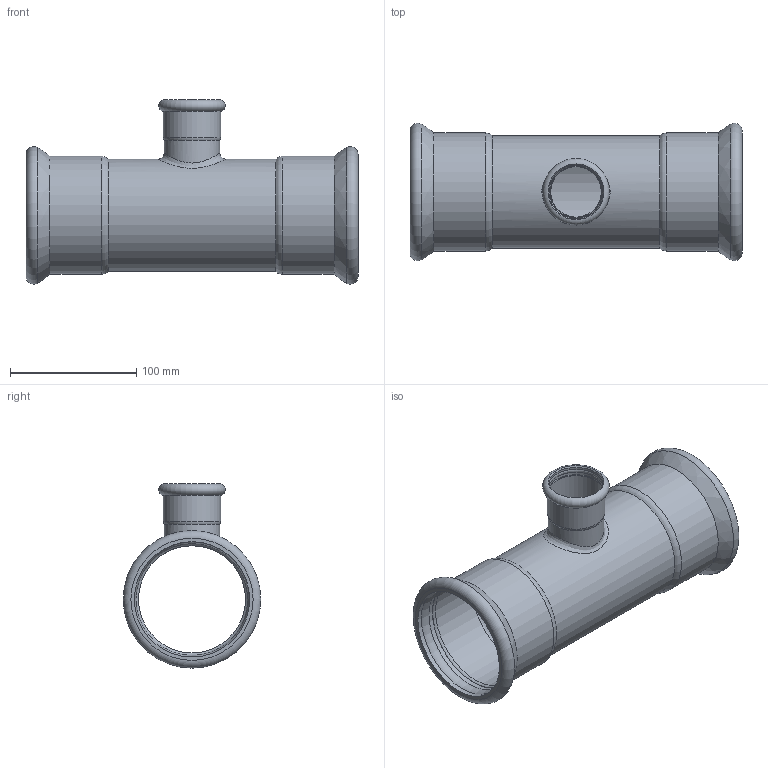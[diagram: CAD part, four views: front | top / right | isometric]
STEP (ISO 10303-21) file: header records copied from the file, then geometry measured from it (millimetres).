
FILE_DESCRIPTION(/* description */ ('TEE RIDOTTO 88,9-42-88,9'),/* implementation_level */ '2;1');
FILE_NAME(/* name */ 'T:\A_ARTICOLI\ARTICOLI PRODOTTI_WEB\Articoli_STEELPRES_WEB\Temporary Step\392088042_Steelpres.ipt.step',/* time_stamp */ '2016-01-19T16:43:13+01:00',/* author */ ('Ghirlinghelli Diego'),/* organization */ (''),/* preprocessor_version */ 'ST-DEVELOPER v15.2',/* originating_system */ 'Autodesk Inventor 2014',/* authorisation */ 'R.M. S.p.A. si riserva a termini di legge la proprietà del presente disegno con divieto di riprodurlo o comunicarlo a terzi senza sua autorizzazione scritta');
FILE_SCHEMA (('AUTOMOTIVE_DESIGN { 1 0 10303 214 3 1 1 }'));
Length unit declared in the file: millimetre
Products named in the file (1): 392088042_Steelpres
Bounding box: 263 x 108.99 x 145.94 mm (x, y, z)
Volume: 216774.2 mm3; surface area: 166626.3 mm2
Topology: 1 solids, 1 shells, 42 faces, 98 edges, 59 vertices
Faces by surface type: cylinder 17, torus 15, bspline 4, cone 3, plane 3
Full cylindrical faces by diameter (mm): 40 x1, 41 x1, 42.4 x1, 42.7 x2, 44 x1, 45.4 x1, 84.9 x1, 88.9 x1, 89.5 x2, 91.3 x4, 93.5 x2
Entity records: 1388 total; most frequent: CARTESIAN_POINT 613, DIRECTION 168, ORIENTED_EDGE 102, AXIS2_PLACEMENT_3D 84, EDGE_LOOP 82, EDGE_CURVE 51, VERTEX_POINT 47, CIRCLE 45
